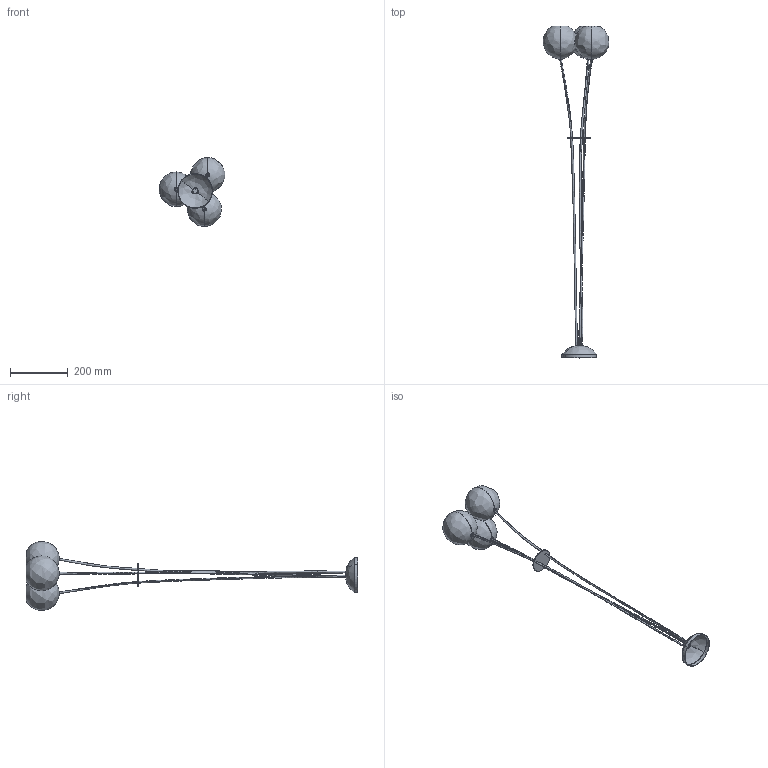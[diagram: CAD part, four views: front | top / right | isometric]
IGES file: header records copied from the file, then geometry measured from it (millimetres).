
Start section: SolidWorks IGES file using analytic representation for surfaces
Global section: file name: C:\Users\ppp\Desktop\Nowodvorski\Modele 3D_lampy\Bubble\3ds\Bubble_3.IGS; native system: SolidWorks 2012; preprocessor: SolidWorks 2012; author: ppp; date: 150727.154001; units: millimetre
Bounding box: 228.38 x 1151.43 x 239.03 mm (x, y, z)
Surface area: 364338.3 mm2 (no closed solid volume)
Topology: 0 solids, 0 shells, 100 faces, 2341 edges, 2341 vertices
Faces by surface type: bspline 58, revolution 42
